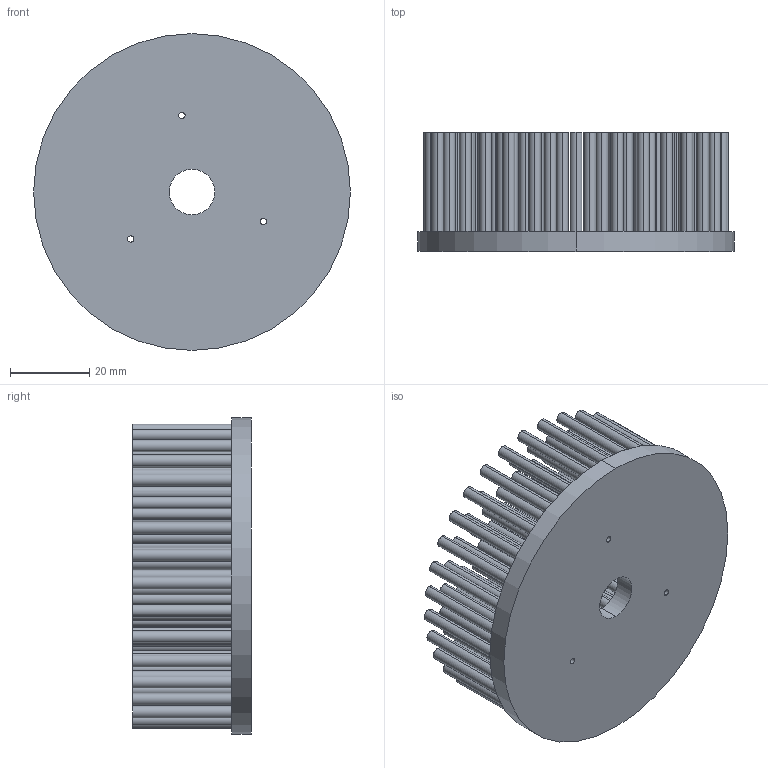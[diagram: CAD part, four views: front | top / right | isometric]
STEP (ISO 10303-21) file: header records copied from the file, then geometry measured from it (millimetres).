
FILE_DESCRIPTION (( 'STEP AP203' ), '1' );
FILE_NAME ('XSA-66-M2 (O80mm X 30mm).STEP', '2012-06-27T08:58:26', ( 'Your User Name' ), ( 'Your Company Name' ), 'SwSTEP 2.0', 'SolidWorks 2011', '' );
FILE_SCHEMA (( 'CONFIG_CONTROL_DESIGN' ));
Length unit declared in the file: millimetre
Products named in the file (1): XSA-66-M2 (O80mm X 30mm)
Bounding box: 80 x 30 x 80 mm (x, y, z)
Volume: 50206.9 mm3; surface area: 45510.8 mm2
Topology: 1 solids, 1 shells, 447 faces, 900 edges, 600 vertices
Faces by surface type: cylinder 300, plane 147
Entity records: 12067 total; most frequent: DIRECTION 2396, CARTESIAN_POINT 1948, ORIENTED_EDGE 1800, AXIS2_PLACEMENT_3D 1048, EDGE_CURVE 900, CIRCLE 600, VERTEX_POINT 600, EDGE_LOOP 600
